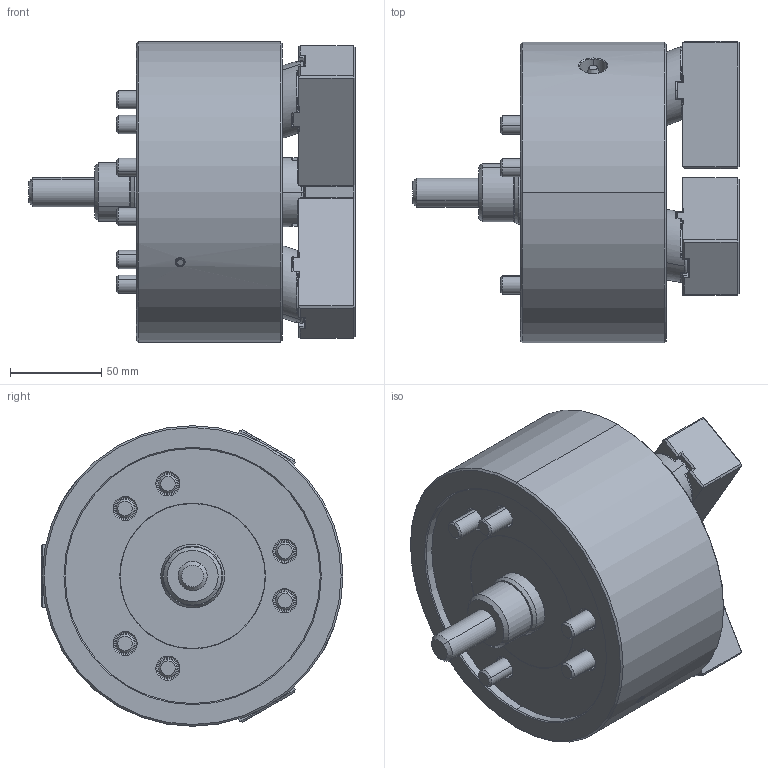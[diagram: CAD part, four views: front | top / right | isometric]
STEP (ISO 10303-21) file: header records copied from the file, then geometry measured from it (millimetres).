
FILE_DESCRIPTION (( 'STEP AP214' ), '1' );
FILE_NAME ('LU_06_CL.STEP', '2019-11-07T23:57:33', ( '' ), ( '' ), 'SwSTEP 2.0', 'SolidWorks 2017', '' );
FILE_SCHEMA (( 'AUTOMOTIVE_DESIGN' ));
Length unit declared in the file: millimetre
Products named in the file (4): 結合; 0030114030; 61P811970; LU_06_CL
Assembly tree (7 placements, depth 2):
  LU_06_CL
    61P811970  x3
    0030114030  x3
    結合
Bounding box: 179 x 165.7 x 165 mm (x, y, z)
Volume: 1864410.7 mm3; surface area: 194710.5 mm2
Topology: 7 solids, 8 shells, 1300 faces, 3229 edges, 1998 vertices
Faces by surface type: plane 739, cone 215, cylinder 182, bspline 138, torus 26
Entity records: 39481 total; most frequent: CARTESIAN_POINT 14558, ORIENTED_EDGE 5426, DIRECTION 4628, EDGE_CURVE 2713, VERTEX_POINT 1718, VECTOR 1562, LINE 1562, AXIS2_PLACEMENT_3D 1533
